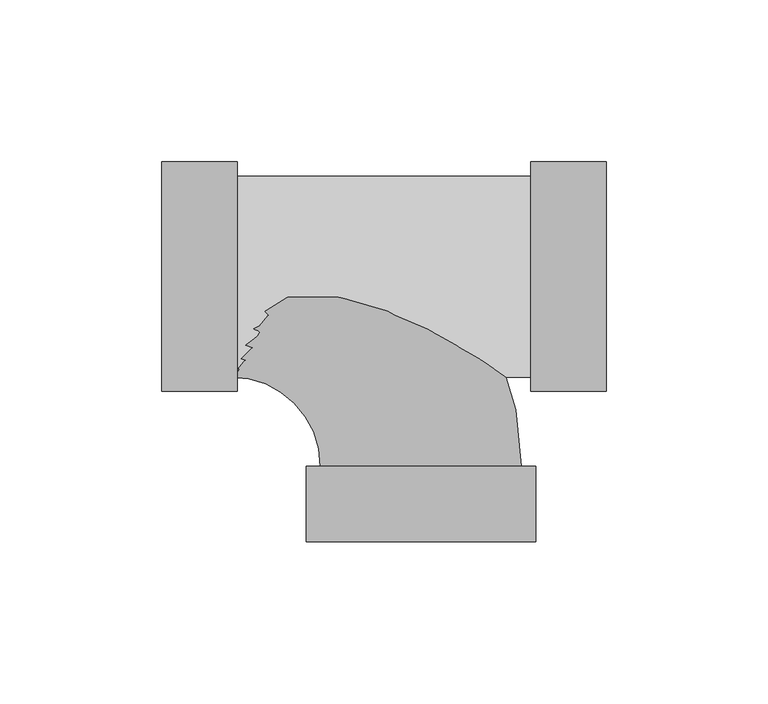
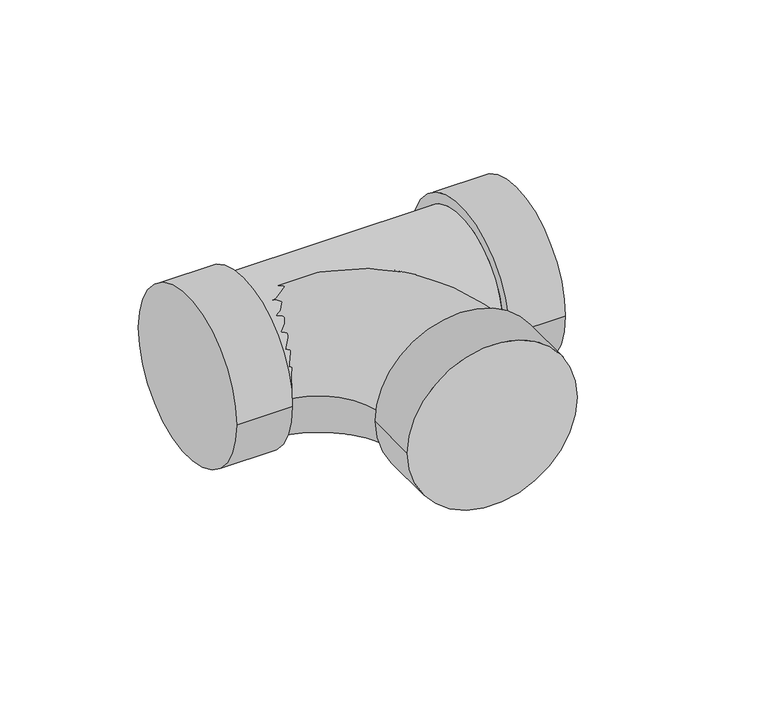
"""IFC4 building model written with IfcOpenShell, lengths in millimetres: pipe fitting geometry, M_Sanitario con te de reducción - PVC - Serie 40 - DWV : Estándar."""

import ifcopenshell
import ifcopenshell.guid

model = None  # the IFC model being written
_history = None  # IfcOwnerHistory: only IFC2X3 demands one
_inside = {}  # id of a spatial element -> (the spatial element, [elements in it])
_under = {}  # id of a project, library or spatial element -> (it, [spatial elements below it])
_declared = {}  # id of a project -> (the project, [libraries it declares])
_typed = {}  # id of a type object -> (the type object, [elements of that type])
_made_of = {}  # id of a material, layer set ... -> (it, [elements and type objects made of it])


def new_model(schema):
    """Start an empty IFC model of exactly this schema.

    Asked for "IFC4X3", IfcOpenShell would pick the latest addendum, in which some entities
    have other attributes; the version numbers below select the first issue.
    IFC2X3 requires an IfcOwnerHistory on every rooted entity: one is made here for all.
    """
    global model, _history
    if schema == "IFC4X3":
        model = ifcopenshell.file(schema_version=(4, 3, 0, 0))
    else:
        model = ifcopenshell.file(schema=schema)
    _inside.clear()
    _under.clear()
    _declared.clear()
    _typed.clear()
    _made_of.clear()
    _history = None
    if model.schema == "IFC2X3":
        org = make("IfcOrganization", Name="unknown")
        user = make(
            "IfcPersonAndOrganization",
            ThePerson=make("IfcPerson", FamilyName="unknown"),
            TheOrganization=org,
        )
        app = make(
            "IfcApplication",
            ApplicationDeveloper=org,
            Version="unknown",
            ApplicationFullName="unknown",
            ApplicationIdentifier="unknown",
        )
        _history = make(
            "IfcOwnerHistory",
            OwningUser=user,
            OwningApplication=app,
            ChangeAction="ADDED",
            CreationDate=0,
        )
    return model


def make(cls, **values):
    """One entity of the class cls with the attributes given. An attribute that is None is left unset."""
    return model.create_entity(
        cls, **{name: value for name, value in values.items() if value is not None}
    )


def rooted(cls, **values):
    """An entity with a GlobalId (a new one), such as an element, a storey or a relation."""
    return make(cls, GlobalId=ifcopenshell.guid.new(), OwnerHistory=_history, **values)


def si_unit(unit_type, name, prefix=None):
    """IfcSIUnit, for example si_unit("LENGTHUNIT", "METRE", prefix="MILLI")."""
    return make("IfcSIUnit", UnitType=unit_type, Prefix=prefix, Name=name)


def assignment(units):
    """IfcUnitAssignment: the units of a project."""
    return None if units is None else make("IfcUnitAssignment", Units=units)


def point(xyz):
    """IfcCartesianPoint."""
    return None if xyz is None else make("IfcCartesianPoint", Coordinates=xyz)


def direction(xyz):
    """IfcDirection."""
    return None if xyz is None else make("IfcDirection", DirectionRatios=xyz)


def frame(location, z_axis=None, x_axis=None):
    """IfcAxis2Placement3D, a coordinate frame: its origin and axes. An axis left out is left unset."""
    return make(
        "IfcAxis2Placement3D",
        Location=point(location),
        Axis=direction(z_axis),
        RefDirection=direction(x_axis),
    )


def origin():
    """The frame at (0, 0, 0) with its axes left unset."""
    return frame((0.0, 0.0, 0.0))


def place(relative_to, where):
    """IfcLocalPlacement: puts the frame where relative to a parent placement (None: the world)."""
    return make(
        "IfcLocalPlacement", PlacementRelTo=relative_to, RelativePlacement=where
    )


def context(
    kind, dimensions, precision=None, world=None, true_north=None, identifier=None
):
    """IfcGeometricRepresentationContext, for example the 3D "Model" context."""
    return make(
        "IfcGeometricRepresentationContext",
        ContextIdentifier=identifier,
        ContextType=kind,
        CoordinateSpaceDimension=dimensions,
        Precision=precision,
        WorldCoordinateSystem=world,
        TrueNorth=true_north,
    )


def project(units=None, contexts=None):
    """IfcProject with its units and contexts."""
    return rooted(
        "IfcProject",
        Name="project",
        RepresentationContexts=contexts,
        UnitsInContext=assignment(units),
    )


def spatial(cls, under=None, at=None, **own):
    """A site, building, storey or space (cls), placed at a placement, below another one or the project."""
    s = rooted(cls, ObjectPlacement=at, **own)
    if under is not None:
        _under.setdefault(under.id(), (under, []))[1].append(s)
    return s


def circle_curve(where, radius):
    """IfcCircle in the frame where."""
    return make("IfcCircle", Position=where, Radius=radius)


def ellipse_curve(where, semi_axis1, semi_axis2):
    """IfcEllipse in the frame where."""
    return make(
        "IfcEllipse", Position=where, SemiAxis1=semi_axis1, SemiAxis2=semi_axis2
    )


def trimmed(basis, trim1, trim2, sense, master):
    """IfcTrimmedCurve: the piece of a basis curve between two trims."""
    return make(
        "IfcTrimmedCurve",
        BasisCurve=basis,
        Trim1=trim1,
        Trim2=trim2,
        SenseAgreement=sense,
        MasterRepresentation=master,
    )


def shape(context_of_items, identifier, shape_type, items):
    """IfcShapeRepresentation: the items that make up one representation, for example the "Body"."""
    return make(
        "IfcShapeRepresentation",
        ContextOfItems=context_of_items,
        RepresentationIdentifier=identifier,
        RepresentationType=shape_type,
        Items=items,
    )


def source(mapping_origin, context_of_items, identifier, shape_type, items):
    """IfcRepresentationMap: a shape defined once, which mapped items show again and again."""
    return make(
        "IfcRepresentationMap",
        MappingOrigin=mapping_origin,
        MappedRepresentation=shape(context_of_items, identifier, shape_type, items),
    )


def transform(
    local_origin,
    x_axis=None,
    y_axis=None,
    z_axis=None,
    scale=None,
    scale2=None,
    scale3=None,
    uniform=True,
):
    """IfcCartesianTransformationOperator3D, or its non-uniform kind. x_axis, y_axis, z_axis: its Axis1, 2, 3."""
    if uniform:
        return make(
            "IfcCartesianTransformationOperator3D",
            Axis1=direction(x_axis),
            Axis2=direction(y_axis),
            LocalOrigin=point(local_origin),
            Scale=scale,
            Axis3=direction(z_axis),
        )
    return make(
        "IfcCartesianTransformationOperator3DnonUniform",
        Axis1=direction(x_axis),
        Axis2=direction(y_axis),
        LocalOrigin=point(local_origin),
        Scale=scale,
        Axis3=direction(z_axis),
        Scale2=scale2,
        Scale3=scale3,
    )


def mapped(mapping_source, mapping_target):
    """IfcMappedItem: shows the shape of a source again, moved by a transform."""
    return make(
        "IfcMappedItem", MappingSource=mapping_source, MappingTarget=mapping_target
    )


def made_of(thing, what):
    """Note that an element or type object is made of a material, layer set ...; save() writes the relation."""
    if what is not None:
        _made_of.setdefault(what.id(), (what, []))[1].append(thing)
    return thing


def element(
    cls,
    number,
    at=None,
    inside=None,
    cuts=None,
    type_object=None,
    material=None,
    context=None,
    identifier="Body",
    shape_type=None,
    held_by="IfcProductDefinitionShape",
    body=None,
    shapes=None,
    **own,
):
    """One element of the class cls, such as IfcWall. Its Tag is "e" and its number.

    at: its placement. inside: the storey or other place that contains it. cuts: it is an
    opening in that element (IfcRelVoidsElement). A single representation is given by context,
    identifier, shape_type and body (its items); several are given by shapes. held_by: the class
    of the entity that holds the representations. save() writes the other relations.
    """
    e = rooted(cls, Tag="e%d" % number, ObjectPlacement=at, **own)
    if body is not None:
        shapes = [shape(context, identifier, shape_type, body)]
    if shapes is not None:
        e.Representation = make(held_by, Representations=shapes)
    if inside is not None:
        _inside.setdefault(inside.id(), (inside, []))[1].append(e)
    if cuts is not None:
        rooted(
            "IfcRelVoidsElement", RelatingBuildingElement=cuts, RelatedOpeningElement=e
        )
    if type_object is not None:
        _typed.setdefault(type_object.id(), (type_object, []))[1].append(e)
    return made_of(e, material)


def aggregate(whole, parts):
    """IfcRelAggregates: a whole, such as a stair, and the parts it consists of."""
    return rooted("IfcRelAggregates", RelatingObject=whole, RelatedObjects=parts)


def save(model, path):
    """Write the relations noted so far, then the file.

    IfcRelAggregates (storeys below a building ...), IfcRelContainedInSpatialStructure (elements
    in a storey), IfcRelDefinesByType, IfcRelAssociatesMaterial and IfcRelDeclares: one each for
    every whole, place, type object, material and project.
    """
    for whole, parts in _under.values():
        aggregate(whole, parts)
    for where, things in _inside.values():
        rooted(
            "IfcRelContainedInSpatialStructure",
            RelatedElements=things,
            RelatingStructure=where,
        )
    for kind, things in _typed.values():
        rooted("IfcRelDefinesByType", RelatedObjects=things, RelatingType=kind)
    for what, things in _made_of.values():
        rooted("IfcRelAssociatesMaterial", RelatedObjects=things, RelatingMaterial=what)
    for by, libraries in _declared.values():
        rooted("IfcRelDeclares", RelatingContext=by, RelatedDefinitions=libraries)
    model.write(path)


def plane_surface(at):
    """IfcPlane: the flat surface through the origin of the frame at, square to its z axis."""
    return make("IfcPlane", Position=at)


def cylinder_surface(at, radius):
    """IfcCylindricalSurface: all points at the distance radius from the z axis of the frame at."""
    return make("IfcCylindricalSurface", Position=at, Radius=radius)


def revolved_surface(curve, axis_point, axis_direction):
    """IfcSurfaceOfRevolution: the curve turned about the line through axis_point along axis_direction."""
    return make(
        "IfcSurfaceOfRevolution",
        SweptCurve=make("IfcArbitraryOpenProfileDef", ProfileType="CURVE", Curve=curve),
        AxisPosition=make("IfcAxis1Placement", Location=point(axis_point), Axis=direction(axis_direction)),
    )


def advanced_brep(points, edges, surfaces, faces):
    """IfcAdvancedBrep: a solid bounded by faces that lie on surfaces and meet in shared edges.

    An edge is (start, end): straight between two places in points (the first is 0);
    or (start, end, curve); or (start, end, curve, False) where it runs against its curve.
    A face is (place in surfaces, loops), or (place, loops, False) where it looks against
    its surface's normal. A loop lists edges by number (the first is 1), with a minus sign
    where the edge is run from its end to its start. The first loop is the outer one.
    """
    corners = [point(p) for p in points]
    vertices = [make("IfcVertexPoint", VertexGeometry=c) for c in corners]
    made = []
    for start, end, *more in edges:
        made.append(
            make(
                "IfcEdgeCurve",
                EdgeStart=vertices[start],
                EdgeEnd=vertices[end],
                EdgeGeometry=more[0] if more else make("IfcPolyline", Points=[corners[start], corners[end]]),
                SameSense=more[1] if len(more) > 1 else True,
            )
        )
    hull = []
    for where, loops, *sense in faces:
        bounds = []
        for j, loop in enumerate(loops):
            ring = [make("IfcOrientedEdge", EdgeElement=made[abs(k) - 1], Orientation=k > 0) for k in loop]
            bounds.append(
                make(
                    "IfcFaceOuterBound" if j == 0 else "IfcFaceBound",
                    Bound=make("IfcEdgeLoop", EdgeList=ring),
                    Orientation=True,
                )
            )
        hull.append(make("IfcAdvancedFace", Bounds=bounds, FaceSurface=surfaces[where], SameSense=sense[0] if sense else True))
    return make("IfcAdvancedBrep", Outer=make("IfcClosedShell", CfsFaces=hull))


def pipe_fitting_6ef1482d(model_context):
    return source(origin(), model_context, "Body", "AdvancedBrep", [
        advanced_brep(
        [(33.864677, -35.4191094, 0.0), (33.864677, 35.4191094, 0.0), (33.864677, -30.9800625, 0.0), (33.864677, 30.9800625, 0.0), (57.1929895, -35.4191094, 0.0), (57.1929895, 35.4191094, 0.0), (-56.6061542, 30.9800625, 0.0), (-56.6061542, -30.9800625, 0.0), (-79.9344667, -35.4191094, 0.0), (-79.9344667, 35.4191094, 0.0), (-56.6061542, -35.4191094, 0.0), (-56.6061542, 35.4191094, 0.0)],
        [
            (0, 1, circle_curve(frame((33.864677, 0.0, 0.0), z_axis=(-1.0, 0.0, 0.0), x_axis=(0.0, 1.0, 0.0)), 35.4191094)),
            (1, 0, circle_curve(frame((33.864677, 0.0, 0.0), z_axis=(-1.0, 0.0, 0.0), x_axis=(0.0, 1.0, 0.0)), 35.4191094)),
            (2, 3, circle_curve(frame((33.864677, 0.0, 0.0), z_axis=(1.0, 0.0, 0.0), x_axis=(0.0, 0.0, -1.0)), 30.9800625)),
            (3, 2, circle_curve(frame((33.864677, 0.0, 0.0), z_axis=(1.0, 0.0, 0.0), x_axis=(0.0, 0.0, 1.0)), 30.9800625)),
            (4, 5, circle_curve(frame((57.1929895, 0.0, 0.0), z_axis=(1.0, 0.0, 0.0), x_axis=(0.0, 1.0, 0.0)), 35.4191094)),
            (5, 4, circle_curve(frame((57.1929895, 0.0, 0.0), z_axis=(1.0, 0.0, 0.0), x_axis=(0.0, 1.0, 0.0)), 35.4191094)),
            (0, 4),
            (5, 1),
            (6, 3),
            (2, 7),
            (7, 6, circle_curve(frame((-56.6061542, 0.0, 0.0), z_axis=(1.0, 0.0, 0.0), x_axis=(0.0, 0.0, -1.0)), 30.9800625)),
            (6, 7, circle_curve(frame((-56.6061542, 0.0, 0.0), z_axis=(1.0, 0.0, 0.0), x_axis=(0.0, 0.0, 1.0)), 30.9800625)),
            (8, 9, circle_curve(frame((-79.9344667, 0.0, 0.0), z_axis=(-1.0, 0.0, 0.0), x_axis=(0.0, 1.0, 0.0)), 35.4191094)),
            (9, 8, circle_curve(frame((-79.9344667, 0.0, 0.0), z_axis=(-1.0, 0.0, 0.0), x_axis=(0.0, 1.0, 0.0)), 35.4191094)),
            (10, 11, circle_curve(frame((-56.6061542, 0.0, 0.0), z_axis=(1.0, 0.0, 0.0), x_axis=(0.0, 1.0, 0.0)), 35.4191094)),
            (11, 10, circle_curve(frame((-56.6061542, 0.0, 0.0), z_axis=(1.0, 0.0, 0.0), x_axis=(0.0, 1.0, 0.0)), 35.4191094)),
            (8, 10),
            (11, 9),
        ],
        [
            plane_surface(frame((33.864677, 0.0, 0.0), z_axis=(-1.0, 0.0, 0.0), x_axis=(0.0, 0.0, 1.0))),
            plane_surface(frame((57.1929895, 0.0, 0.0), z_axis=(1.0, 0.0, 0.0), x_axis=(0.0, 0.0, 1.0))),
            cylinder_surface(frame((33.864677, 0.0, 0.0), z_axis=(-1.0, 0.0, 0.0), x_axis=(0.0, 1.0, 0.0)), 35.4191094),
            cylinder_surface(frame((-56.6061542, 0.0, 0.0), z_axis=(1.0, 0.0, 0.0), x_axis=(0.0, 0.0, -1.0)), 30.9800625),
            cylinder_surface(frame((-56.6061542, 0.0, 0.0), z_axis=(1.0, 0.0, 0.0), x_axis=(0.0, 0.0, 1.0)), 30.9800625),
            plane_surface(frame((-79.9344667, 0.0, 0.0), z_axis=(-1.0, 0.0, 0.0), x_axis=(0.0, 0.0, 1.0))),
            plane_surface(frame((-56.6061542, 0.0, 0.0), z_axis=(1.0, 0.0, 0.0), x_axis=(0.0, 0.0, 1.0))),
            cylinder_surface(frame((-79.9344667, 0.0, 0.0), z_axis=(-1.0, 0.0, 0.0), x_axis=(0.0, 1.0, 0.0)), 35.4191094),
        ],
        [
            (0, [[1, 2], [3, 4]]),
            (1, [[5, 6]]),
            (2, [[-1, 7, -6, 8]]),
            (2, [[-2, -8, -5, -7]]),
            (3, [[9, -3, 10, 11]]),
            (4, [[-9, 12, -10, -4]]),
            (5, [[13, 14]]),
            (6, [[15, 16], [-11, -12]]),
            (7, [[-13, 17, -16, 18]]),
            (7, [[-14, -18, -15, -17]]),
        ],
    ),
        advanced_brep(
        [(-35.4191094, -58.4636563, 0.0), (35.4191094, -58.4636563, 0.0), (30.9800625, -58.4636563, 0.0), (-30.9800625, -58.4636563, 0.0), (-35.4191094, -81.7919688, 0.0), (35.4191094, -81.7919688, 0.0), (-58.4636562, -30.9800625, 0.0), (-58.4636562, 30.9800625, 0.0)],
        [
            (0, 1, circle_curve(frame((0.0, -58.4636563, 0.0), z_axis=(0.0, 1.0, 0.0), x_axis=(1.0, 0.0, 0.0)), 35.4191094)),
            (1, 0, circle_curve(frame((0.0, -58.4636563, 0.0), z_axis=(0.0, 1.0, 0.0), x_axis=(1.0, 0.0, 0.0)), 35.4191094)),
            (2, 3, circle_curve(frame((0.0, -58.4636563, 0.0), z_axis=(0.0, -1.0, 0.0), x_axis=(1.0, 0.0, 0.0)), 30.9800625)),
            (3, 2, circle_curve(frame((0.0, -58.4636563, 0.0), z_axis=(0.0, -1.0, 0.0), x_axis=(1.0, 0.0, 0.0)), 30.9800625)),
            (4, 5, circle_curve(frame((0.0, -81.7919688, 0.0), z_axis=(0.0, -1.0, 0.0), x_axis=(1.0, 0.0, 0.0)), 35.4191094)),
            (5, 4, circle_curve(frame((0.0, -81.7919688, 0.0), z_axis=(0.0, -1.0, 0.0), x_axis=(1.0, 0.0, 0.0)), 35.4191094)),
            (0, 4),
            (5, 1),
            (6, 7, circle_curve(frame((-58.4636562, 0.0, 0.0), z_axis=(-1.0, 0.0, 0.0), x_axis=(0.0, 1.0, 0.0)), 30.9800625)),
            (7, 6, circle_curve(frame((-58.4636562, 0.0, 0.0), z_axis=(-1.0, 0.0, 0.0), x_axis=(0.0, 1.0, 0.0)), 30.9800625)),
            (6, 3, circle_curve(frame((-58.4636562, -58.4636563, 0.0), z_axis=(0.0, 0.0, -1.0), x_axis=(0.0, 1.0, 0.0)), 27.4835938)),
            (2, 7, circle_curve(frame((-58.4636562, -58.4636563, 0.0), z_axis=(0.0, 0.0, 1.0), x_axis=(0.0, 1.0, 0.0)), 89.4437188)),
        ],
        [
            plane_surface(frame((0.0, -58.4636563, 0.0), z_axis=(0.0, 1.0, 0.0), x_axis=(0.0, 0.0, 1.0))),
            plane_surface(frame((0.0, -81.7919688, 0.0), z_axis=(0.0, -1.0, 0.0), x_axis=(0.0, 0.0, 1.0))),
            cylinder_surface(frame((0.0, -58.4636563, 0.0), z_axis=(0.0, 1.0, 0.0), x_axis=(1.0, 0.0, 0.0)), 35.4191094),
            plane_surface(frame((-58.4636562, 0.0, 0.0), z_axis=(-1.0, 0.0, 0.0), x_axis=(0.0, 0.0, 1.0))),
            revolved_surface(trimmed(ellipse_curve(frame((-58.4636562, 0.0, 0.0), z_axis=(-1.0, 0.0, 0.0), x_axis=(0.0, 1.0, 0.0)), 30.9800625, 30.9800625), [point((-58.4636562, -30.9800625, 0.0))], [point((-58.4636562, 30.9800625, 0.0))], True, "CARTESIAN"), (-58.4636562, -58.4636563, 0.0), (0.0, 0.0, -1.0)),
            revolved_surface(trimmed(ellipse_curve(frame((-58.4636562, 0.0, 0.0), z_axis=(-1.0, 0.0, 0.0), x_axis=(0.0, 1.0, 0.0)), 30.9800625, 30.9800625), [point((-58.4636562, 30.9800625, 0.0))], [point((-58.4636562, -30.9800625, 0.0))], True, "CARTESIAN"), (-58.4636562, -58.4636563, 0.0), (0.0, 0.0, -1.0)),
        ],
        [
            (0, [[1, 2], [3, 4]]),
            (1, [[5, 6]]),
            (2, [[-1, 7, -6, 8]]),
            (2, [[-2, -8, -5, -7]]),
            (3, [[9, 10]]),
            (4, [[-9, 11, -3, 12]]),
            (5, [[-10, -12, -4, -11]]),
        ],
    ),
    ])


if __name__ == "__main__":
    model = new_model("IFC4")
    model_context = context("Model", 3, world=origin())
    ifc_project = project(units=[si_unit("LENGTHUNIT", "METRE", prefix="MILLI")], contexts=[model_context])
    site = spatial("IfcSite", under=ifc_project)
    building = spatial("IfcBuilding", under=site)
    placement = place(None, origin())
    pipe_fitting_shape = pipe_fitting_6ef1482d(model_context)
    element("IfcPipeFitting", 1, ObjectType="M_Sanitario con te de reducción - PVC - Serie 40 - DWV : Estándar", at=placement, inside=building, context=model_context, shape_type="MappedRepresentation", body=[
        mapped(pipe_fitting_shape, transform((0.0, 0.0, 0.0), x_axis=(1.0, 0.0, 0.0), y_axis=(0.0, 1.0, 0.0), z_axis=(0.0, 0.0, 1.0))),
    ])
    save(model, "model.ifc")
